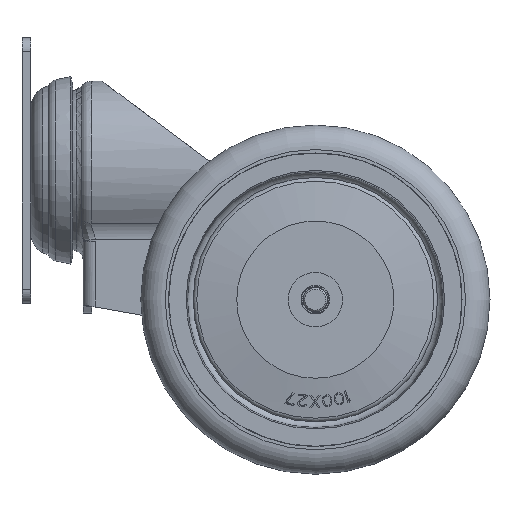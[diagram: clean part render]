
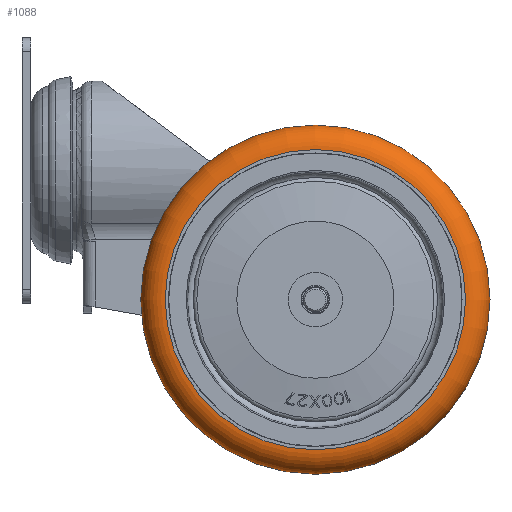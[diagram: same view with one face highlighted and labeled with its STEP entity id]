
A CAD part, left-side view. The second image highlights one B-rep face of the part: STEP entity #1088.
In plain terms, the highlighted toroidal (fillet/blend) face has major radius 43 mm and minor radius 7 mm.
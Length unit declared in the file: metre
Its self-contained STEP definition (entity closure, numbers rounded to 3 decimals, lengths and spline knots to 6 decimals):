
#1088=ADVANCED_FACE('',(#3011,#3012),#3013,.T.);
#3011=FACE_OUTER_BOUND('',#6302,.T.);
#3012=FACE_OUTER_BOUND('',#6303,.T.);
#3013=TOROIDAL_SURFACE('',#6304,0.043,0.007);
#6302=EDGE_LOOP('',(#14083));
#6303=EDGE_LOOP('',(#14084));
#6304=AXIS2_PLACEMENT_3D('',#14085,#14086,#14087);
#14083=ORIENTED_EDGE('',*,*,#25323,.F.);
#14084=ORIENTED_EDGE('',*,*,#25240,.F.);
#14085=CARTESIAN_POINT('',(0.0,0.0,0.0065));
#14086=DIRECTION('',(0.0,0.0,-1.0));
#14087=DIRECTION('',(1.0,0.0,0.0));
#25240=EDGE_CURVE('',#29819,#29819,#29820,.T.);
#25323=EDGE_CURVE('',#29948,#29948,#29949,.T.);
#29819=VERTEX_POINT('',#38273);
#29820=CIRCLE('',#38274,0.05);
#29948=VERTEX_POINT('',#38730);
#29949=CIRCLE('',#38731,0.043);
#38273=CARTESIAN_POINT('',(-0.05,0.0,0.0065));
#38274=AXIS2_PLACEMENT_3D('',#53239,#53240,#53241);
#38730=CARTESIAN_POINT('',(-0.043,0.0,0.0135));
#38731=AXIS2_PLACEMENT_3D('',#53328,#53329,#53330);
#53239=CARTESIAN_POINT('',(0.0,0.0,0.0065));
#53240=DIRECTION('',(0.0,0.0,-1.0));
#53241=DIRECTION('',(-1.0,0.0,0.0));
#53328=CARTESIAN_POINT('',(0.0,0.0,0.0135));
#53329=DIRECTION('',(0.0,0.0,1.0));
#53330=DIRECTION('',(-1.0,0.0,0.0));
